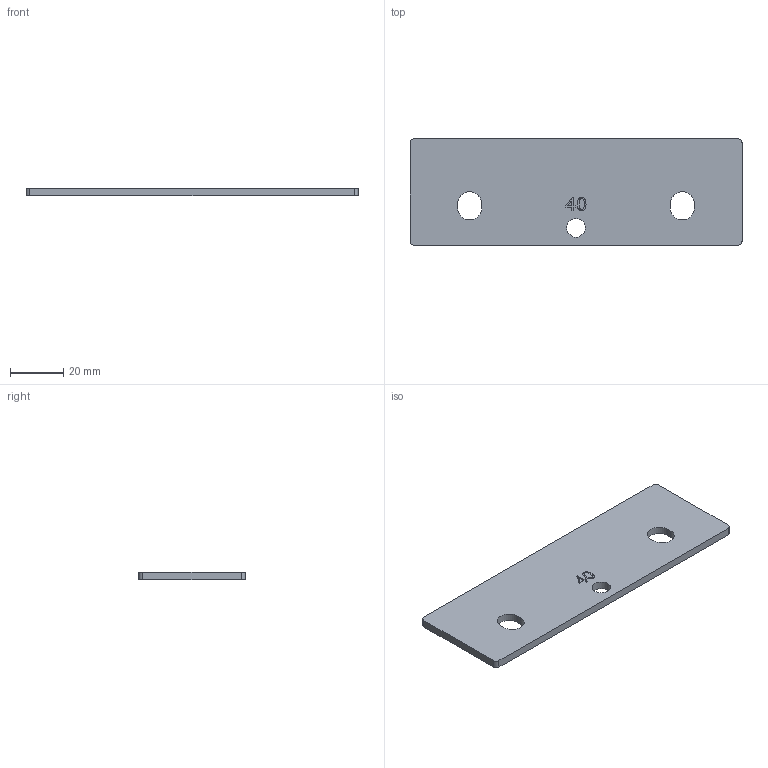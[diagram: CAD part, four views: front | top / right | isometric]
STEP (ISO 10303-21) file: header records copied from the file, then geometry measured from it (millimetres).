
FILE_DESCRIPTION(('STEP AP242'),'1');
FILE_NAME('r Hilma.stp','2024-06-17T13:15:06',('WM'),('Schleif-Tec'),'Spatial InterOp 3D','CimatronE 16.0',' ');
FILE_SCHEMA(('AP242_MANAGED_MODEL_BASED_3D_ENGINEERING_MIM_LF'));
Length unit declared in the file: millimetre
Products named in the file (1): 13
Bounding box: 125 x 40 x 3 mm (x, y, z)
Volume: 14407.8 mm3; surface area: 10852.9 mm2
Topology: 1 solids, 1 shells, 39 faces, 100 edges, 67 vertices
Faces by surface type: plane 28, cylinder 9, extrusion 2
Full cylindrical faces by diameter (mm): 7 x1
Entity records: 1710 total; most frequent: CARTESIAN_POINT 408, ORIENTED_EDGE 196, DIRECTION 190, EDGE_CURVE 98, VECTOR 78, LINE 76, VERTEX_POINT 66, AXIS2_PLACEMENT_3D 56
